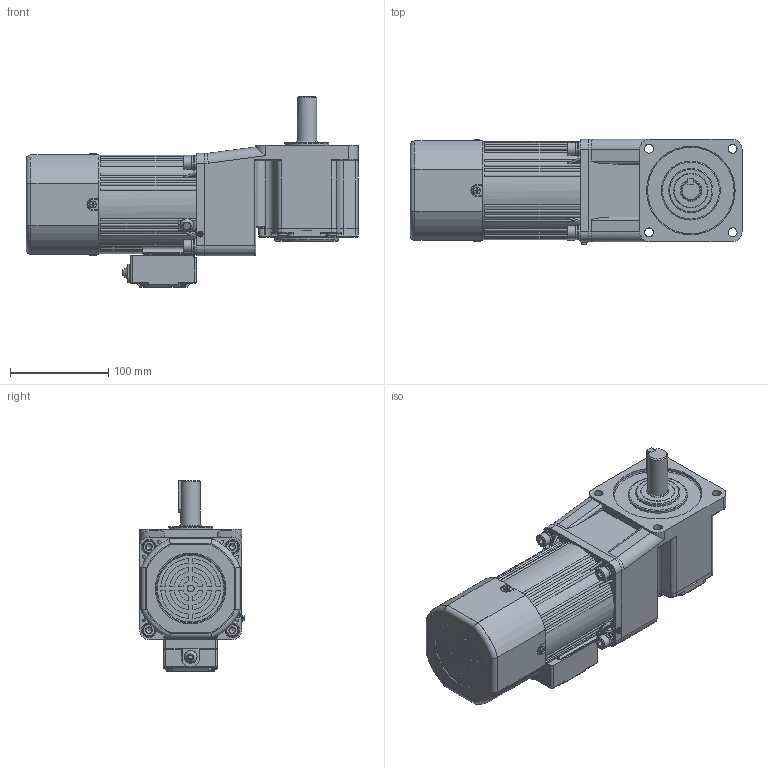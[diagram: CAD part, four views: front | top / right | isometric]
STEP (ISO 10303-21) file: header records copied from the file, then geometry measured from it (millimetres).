
FILE_DESCRIPTION(/* description */ (''),/* implementation_level */ '2;1');
FILE_NAME(/* name */ '100+直角中实-刹车调速风叶-120-140W 新版长款接线盒.stp',/* time_stamp */ '2025-04-07T19:54:48+08:00',/* author */ (''),/* organization */ (''),/* preprocessor_version */ 'ST-DEVELOPER v18.102',/* originating_system */ 'SIEMENS PLM Software NX 2027',/* authorisation */ '');
FILE_SCHEMA (('AP203_CONFIGURATION_CONTROLLED_3D_DESIGN_OF_MECHANICAL_PARTS_AND_ASSEMBLIES_MIM_LF { 1 0 10303 403 2 1 2}'));
Products named in the file (1): 100+直角中实-刹车调速风叶-120-140
W 新版_stp_objects
Bounding box: 337.5 x 106.83 x 193.5 mm (x, y, z)
Volume: 3298850 mm3; surface area: 447552.3 mm2
Topology: 26 solids, 26 shells, 2371 faces, 6157 edges, 3950 vertices
Faces by surface type: plane 1077, cylinder 768, bspline 221, torus 150, cone 111, sphere 44
Full cylindrical faces by diameter (mm): 2.2 x2, 2.5 x2, 2.6 x2, 2.7 x1, 2.9 x4, 3 x1, 3.2 x2, 3.3 x4, 3.5 x6, 3.6 x4, 4 x4, 4.2 x1, 4.55 x2, 4.8 x1, 5.1 x2, 5.15 x2, 5.6 x4, 6 x12, 6.8 x12, 7 x3, 7.5 x2, 7.76 x4, 8 x1, 8.4 x4, 9 x13, 9.3 x1, 9.5 x4, 10 x2, 13 x4, 14 x8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
Entity records: 73879 total; most frequent: CARTESIAN_POINT 18188, ORIENTED_EDGE 11402, DIRECTION 11122, EDGE_CURVE 5701, AXIS2_PLACEMENT_3D 4267, VERTEX_POINT 3807, EDGE_LOOP 2903, LINE 2588
